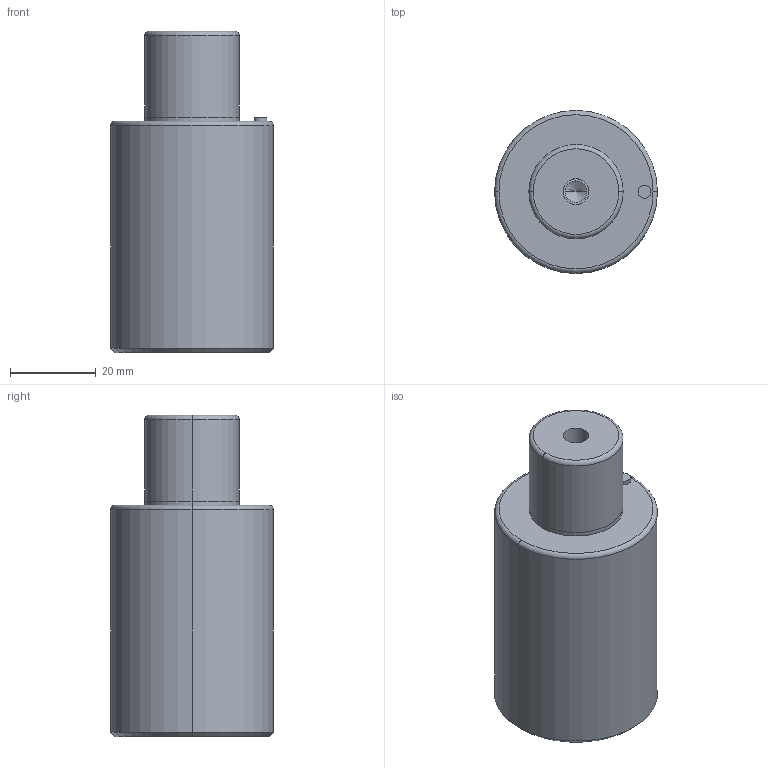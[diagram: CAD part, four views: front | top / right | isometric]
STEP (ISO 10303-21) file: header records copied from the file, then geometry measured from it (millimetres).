
FILE_DESCRIPTION(/* description */ (''),/* implementation_level */ '2;1');
FILE_NAME(/* name */ '3d_gsc38-20_03828_r00.stp',/* time_stamp */ '2011-01-10T14:15:22+09:00',/* author */ ('MISUMI'),/* organization */ (''),/* preprocessor_version */ 'ST-DEVELOPER v11',/* originating_system */ 'UGS - NX 5.0',/* authorisation */ '');
FILE_SCHEMA (('CONFIG_CONTROL_DESIGN'));
Length unit declared in the file: millimetre
Products named in the file (1): 3d_gsc38-20_03828_r00
Bounding box: 38 x 38 x 75 mm (x, y, z)
Volume: 68066.8 mm3; surface area: 10616.2 mm2
Topology: 1 solids, 1 shells, 32 faces, 66 edges, 38 vertices
Faces by surface type: cylinder 16, cone 6, plane 6, torus 4
Entity records: 912 total; most frequent: DIRECTION 168, CARTESIAN_POINT 133, ORIENTED_EDGE 124, AXIS2_PLACEMENT_3D 73, EDGE_CURVE 62, CIRCLE 40, EDGE_LOOP 38, VERTEX_POINT 38
